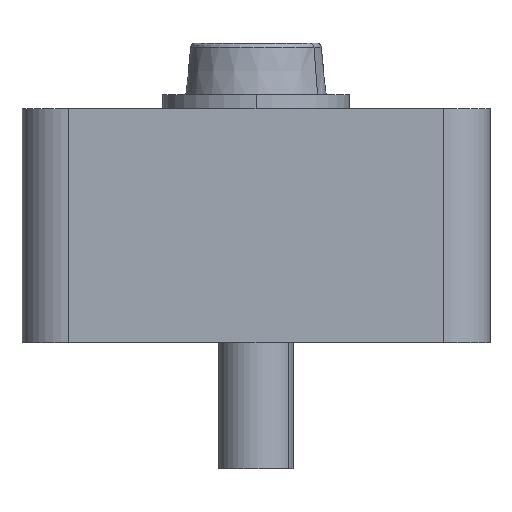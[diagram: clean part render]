
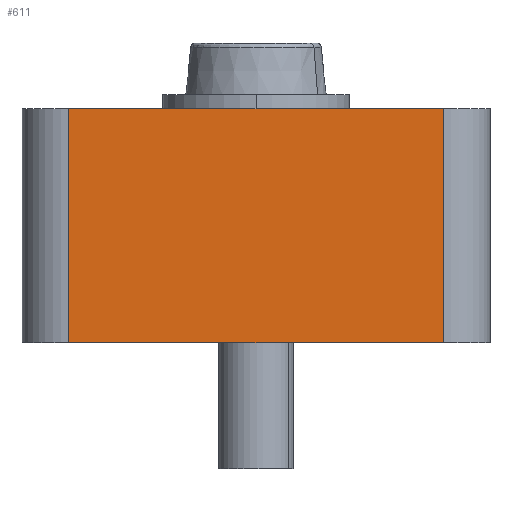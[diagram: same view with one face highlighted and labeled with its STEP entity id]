
A CAD part, front view. The second image highlights one B-rep face of the part: STEP entity #611.
In plain terms, the highlighted planar face has unit normal (0, -1, 0).
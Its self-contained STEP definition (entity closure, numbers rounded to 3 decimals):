
#572=CARTESIAN_POINT('Axis2P3D Location',(0.,-10.,2.5)) ;
#577=CARTESIAN_POINT('Line Origine',(5.,-10.,2.5)) ;
#581=CARTESIAN_POINT('Vertex',(1.,-10.,2.5)) ;
#583=CARTESIAN_POINT('Vertex',(9.,-10.,2.5)) ;
#586=CARTESIAN_POINT('Line Origine',(1.,-10.,0.)) ;
#590=CARTESIAN_POINT('Vertex',(1.,-10.,-2.5)) ;
#593=CARTESIAN_POINT('Line Origine',(5.,-10.,-2.5)) ;
#597=CARTESIAN_POINT('Vertex',(9.,-10.,-2.5)) ;
#600=CARTESIAN_POINT('Line Origine',(9.,-10.,0.)) ;
#573=DIRECTION('Axis2P3D Direction',(0.,-1.,0.)) ;
#574=DIRECTION('Axis2P3D XDirection',(0.,0.,-1.)) ;
#578=DIRECTION('Vector Direction',(1.,0.,0.)) ;
#587=DIRECTION('Vector Direction',(0.,0.,-1.)) ;
#594=DIRECTION('Vector Direction',(1.,0.,0.)) ;
#601=DIRECTION('Vector Direction',(0.,0.,1.)) ;
#575=AXIS2_PLACEMENT_3D('Plane Axis2P3D',#572,#573,#574) ;
#606=ORIENTED_EDGE('',*,*,#585,.F.) ;
#607=ORIENTED_EDGE('',*,*,#592,.T.) ;
#608=ORIENTED_EDGE('',*,*,#599,.T.) ;
#609=ORIENTED_EDGE('',*,*,#604,.F.) ;
#579=VECTOR('Line Direction',#578,1.) ;
#588=VECTOR('Line Direction',#587,1.) ;
#595=VECTOR('Line Direction',#594,1.) ;
#602=VECTOR('Line Direction',#601,1.) ;
#611=ADVANCED_FACE('Hauptk\X2\00F6\X0\rper',(#610),#576,.T.) ;
#585=EDGE_CURVE('',#582,#584,#580,.T.) ;
#592=EDGE_CURVE('',#582,#591,#589,.T.) ;
#599=EDGE_CURVE('',#591,#598,#596,.T.) ;
#604=EDGE_CURVE('',#584,#598,#603,.F.) ;
#605=EDGE_LOOP('',(#606,#607,#608,#609)) ;
#610=FACE_OUTER_BOUND('',#605,.T.) ;
#580=LINE('Line',#577,#579) ;
#589=LINE('Line',#586,#588) ;
#596=LINE('Line',#593,#595) ;
#603=LINE('Line',#600,#602) ;
#576=PLANE('',#575) ;
#582=VERTEX_POINT('',#581) ;
#584=VERTEX_POINT('',#583) ;
#591=VERTEX_POINT('',#590) ;
#598=VERTEX_POINT('',#597) ;
